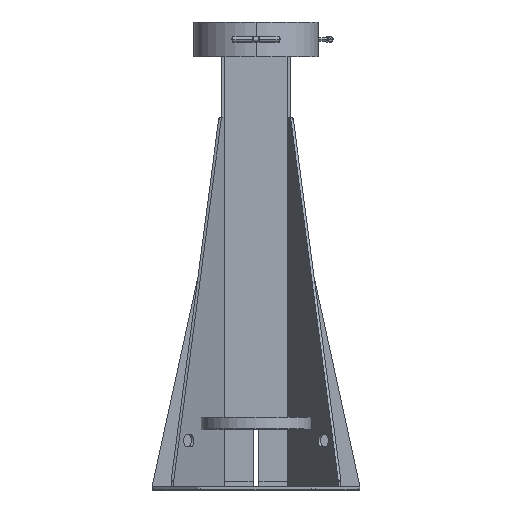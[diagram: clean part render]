
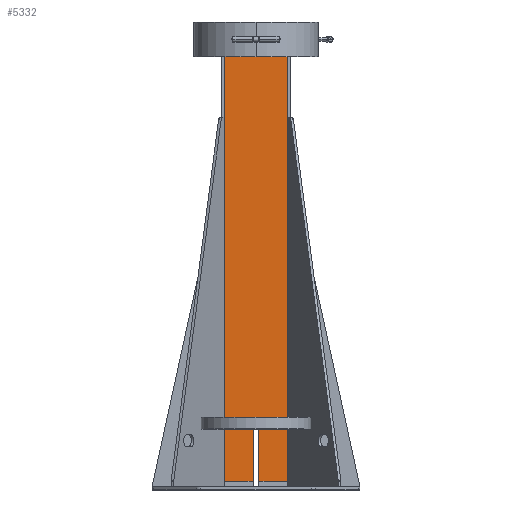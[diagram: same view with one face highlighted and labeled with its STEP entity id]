
A CAD part, top view. The second image highlights one B-rep face of the part: STEP entity #5332.
In plain terms, the highlighted planar face has unit normal (0, 0, 1) as drawn and (0, -1, 0) by its records, which use the part's own axes.
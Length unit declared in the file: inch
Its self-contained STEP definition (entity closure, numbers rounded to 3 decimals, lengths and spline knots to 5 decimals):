
#80 = LINE ( 'NONE', #3972, #2605 ) ;
#100 = PLANE ( 'NONE',  #4918 ) ;
#114 = CARTESIAN_POINT ( 'NONE',  ( 0.25, -0.25, 39. ) ) ;
#141 = CARTESIAN_POINT ( 'NONE',  ( -0.25, -0.25, 0.5 ) ) ;
#354 = LINE ( 'NONE', #1449, #1980 ) ;
#514 = VERTEX_POINT ( 'NONE', #921 ) ;
#613 = EDGE_CURVE ( 'NONE', #649, #1515, #4288, .T. ) ;
#649 = VERTEX_POINT ( 'NONE', #4378 ) ;
#722 = EDGE_LOOP ( 'NONE', ( #4262, #2277, #1082, #3746, #3629, #1941, #1447, #1114 ) ) ;
#746 = EDGE_CURVE ( 'NONE', #4718, #3518, #3428, .T. ) ;
#822 = EDGE_CURVE ( 'NONE', #1515, #4866, #4296, .T. ) ;
#849 = CARTESIAN_POINT ( 'NONE',  ( 2.74, -0.25, 0.5 ) ) ;
#872 = DIRECTION ( 'NONE',  ( 0., 0., 1. ) ) ;
#921 = CARTESIAN_POINT ( 'NONE',  ( -2.74, -0.25, 39. ) ) ;
#1082 = ORIENTED_EDGE ( 'NONE', *, *, #613, .F. ) ;
#1099 = CARTESIAN_POINT ( 'NONE',  ( 3., -0.25, 39. ) ) ;
#1114 = ORIENTED_EDGE ( 'NONE', *, *, #5662, .F. ) ;
#1154 = LINE ( 'NONE', #1623, #3139 ) ;
#1447 = ORIENTED_EDGE ( 'NONE', *, *, #3017, .F. ) ;
#1449 = CARTESIAN_POINT ( 'NONE',  ( 3., -0.25, 0.5 ) ) ;
#1515 = VERTEX_POINT ( 'NONE', #2633 ) ;
#1623 = CARTESIAN_POINT ( 'NONE',  ( 3., -0.25, 0.5 ) ) ;
#1941 = ORIENTED_EDGE ( 'NONE', *, *, #3554, .F. ) ;
#1980 = VECTOR ( 'NONE', #3100, 39.37008 ) ;
#2009 = EDGE_CURVE ( 'NONE', #4866, #2600, #80, .T. ) ;
#2216 = VECTOR ( 'NONE', #5122, 39.37008 ) ;
#2277 = ORIENTED_EDGE ( 'NONE', *, *, #822, .F. ) ;
#2508 = VECTOR ( 'NONE', #4249, 39.37008 ) ;
#2600 = VERTEX_POINT ( 'NONE', #141 ) ;
#2605 = VECTOR ( 'NONE', #3000, 39.37008 ) ;
#2633 = CARTESIAN_POINT ( 'NONE',  ( 0.25, -0.25, 5. ) ) ;
#2816 = CARTESIAN_POINT ( 'NONE',  ( -0.25, -0.25, 5. ) ) ;
#2917 = LINE ( 'NONE', #4185, #4386 ) ;
#3000 = DIRECTION ( 'NONE',  ( 0., 0., -1. ) ) ;
#3017 = EDGE_CURVE ( 'NONE', #5509, #514, #2917, .T. ) ;
#3100 = DIRECTION ( 'NONE',  ( -1., 0., 0. ) ) ;
#3114 = CARTESIAN_POINT ( 'NONE',  ( 3., -0.25, 39. ) ) ;
#3122 = DIRECTION ( 'NONE',  ( 0., 0., 1. ) ) ;
#3139 = VECTOR ( 'NONE', #3315, 39.37008 ) ;
#3287 = DIRECTION ( 'NONE',  ( 0., 1., 0. ) ) ;
#3315 = DIRECTION ( 'NONE',  ( -1., 0., 0. ) ) ;
#3428 = LINE ( 'NONE', #4359, #4973 ) ;
#3445 = EDGE_CURVE ( 'NONE', #3518, #649, #354, .T. ) ;
#3518 = VERTEX_POINT ( 'NONE', #849 ) ;
#3554 = EDGE_CURVE ( 'NONE', #514, #4718, #5377, .T. ) ;
#3629 = ORIENTED_EDGE ( 'NONE', *, *, #746, .F. ) ;
#3746 = ORIENTED_EDGE ( 'NONE', *, *, #3445, .F. ) ;
#3778 = DIRECTION ( 'NONE',  ( 1., 0., 0. ) ) ;
#3972 = CARTESIAN_POINT ( 'NONE',  ( -0.25, -0.25, 39. ) ) ;
#4185 = CARTESIAN_POINT ( 'NONE',  ( -2.74, -0.25, 39. ) ) ;
#4249 = DIRECTION ( 'NONE',  ( 0., 0., 1. ) ) ;
#4262 = ORIENTED_EDGE ( 'NONE', *, *, #2009, .F. ) ;
#4288 = LINE ( 'NONE', #114, #2508 ) ;
#4296 = LINE ( 'NONE', #5550, #2216 ) ;
#4359 = CARTESIAN_POINT ( 'NONE',  ( 2.74, -0.25, 39. ) ) ;
#4378 = CARTESIAN_POINT ( 'NONE',  ( 0.25, -0.25, 0.5 ) ) ;
#4386 = VECTOR ( 'NONE', #3122, 39.37008 ) ;
#4706 = DIRECTION ( 'NONE',  ( 0., 0., -1. ) ) ;
#4718 = VERTEX_POINT ( 'NONE', #5384 ) ;
#4866 = VERTEX_POINT ( 'NONE', #2816 ) ;
#4918 = AXIS2_PLACEMENT_3D ( 'NONE', #1099, #3287, #872 ) ;
#4937 = VECTOR ( 'NONE', #3778, 39.37008 ) ;
#4973 = VECTOR ( 'NONE', #4706, 39.37008 ) ;
#5029 = FACE_OUTER_BOUND ( 'NONE', #722, .T. ) ;
#5122 = DIRECTION ( 'NONE',  ( -1., 0., 0. ) ) ;
#5332 = ADVANCED_FACE ( 'NONE', ( #5029 ), #100, .F. ) ;
#5377 = LINE ( 'NONE', #3114, #4937 ) ;
#5384 = CARTESIAN_POINT ( 'NONE',  ( 2.74, -0.25, 39. ) ) ;
#5509 = VERTEX_POINT ( 'NONE', #5531 ) ;
#5531 = CARTESIAN_POINT ( 'NONE',  ( -2.74, -0.25, 0.5 ) ) ;
#5550 = CARTESIAN_POINT ( 'NONE',  ( 3., -0.25, 5. ) ) ;
#5662 = EDGE_CURVE ( 'NONE', #2600, #5509, #1154, .T. ) ;
